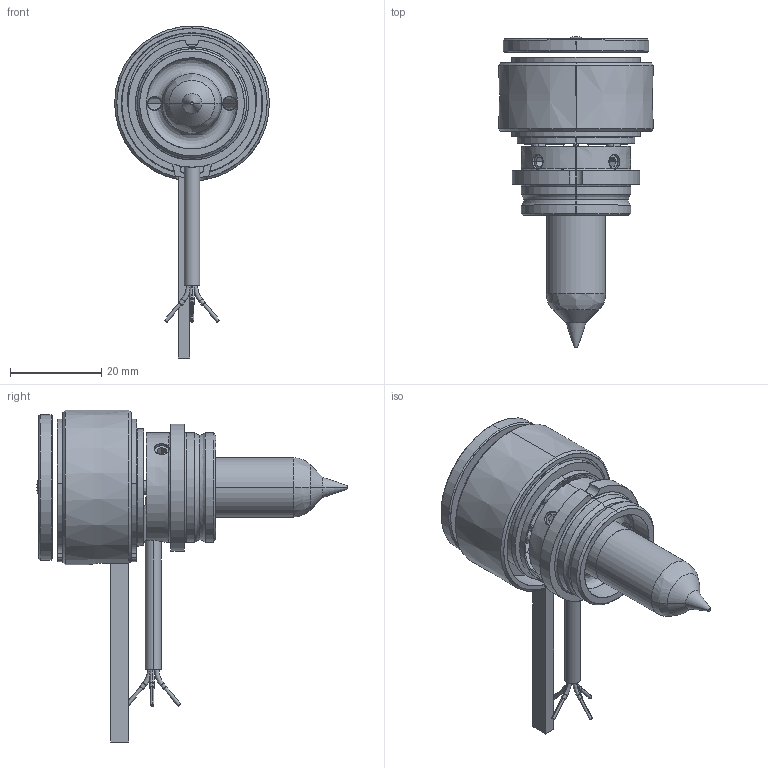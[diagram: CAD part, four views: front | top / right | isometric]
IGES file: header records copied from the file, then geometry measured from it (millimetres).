
Start section: SolidWorks IGES file using analytic representation for surfaces
Global section: file name: C:\Documents and Settings\ws-20\Desktop\TEM\UGGS2510-S-1 [Øf-0.68].IGS; native system: SolidWorks 2012; preprocessor: SolidWorks 2012; author: ws-20; date: 120516.092746; units: millimetre
Bounding box: 34 x 68.3 x 72.9 mm (x, y, z)
Surface area: 15282.8 mm2 (no closed solid volume)
Topology: 0 solids, 0 shells, 205 faces, 2955 edges, 2949 vertices
Faces by surface type: revolution 129, bspline 76
